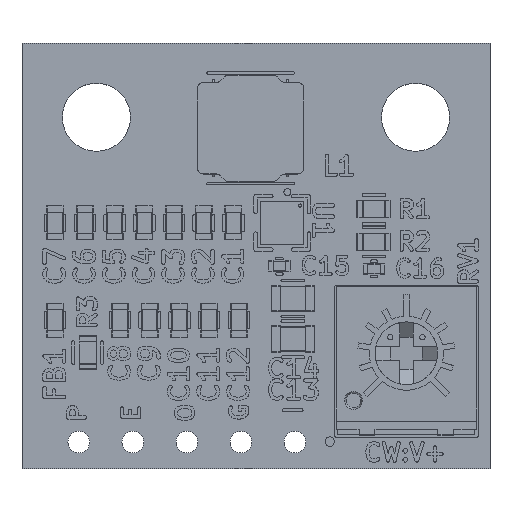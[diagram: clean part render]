
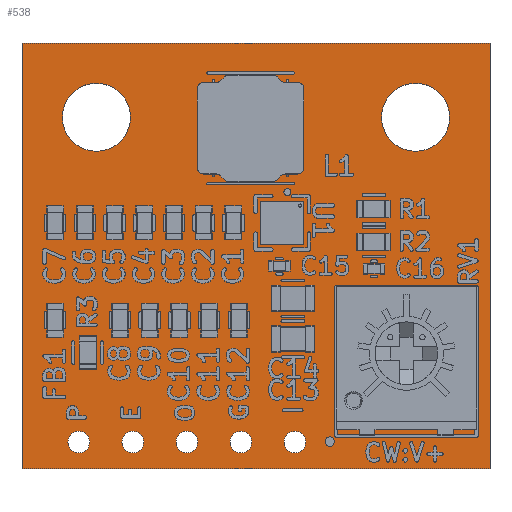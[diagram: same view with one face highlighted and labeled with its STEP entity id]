
A CAD part, top view. The second image highlights one B-rep face of the part: STEP entity #538.
In plain terms, the highlighted planar face has unit normal (0, 0, 1).
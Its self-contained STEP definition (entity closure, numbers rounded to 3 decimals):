
#89 = VERTEX_POINT('',#90);
#90 = CARTESIAN_POINT('',(42.,-40.,0.));
#107 = VERTEX_POINT('',#108);
#108 = CARTESIAN_POINT('',(20.,-40.,0.));
#114 = EDGE_CURVE('',#89,#107,#115,.T.);
#115 = LINE('',#116,#117);
#116 = CARTESIAN_POINT('',(42.,-40.,0.));
#117 = VECTOR('',#118,1.);
#118 = DIRECTION('',(-1.,0.,0.));
#129 = VERTEX_POINT('',#130);
#130 = CARTESIAN_POINT('',(42.,-20.,0.));
#145 = EDGE_CURVE('',#129,#89,#146,.T.);
#146 = LINE('',#147,#148);
#147 = CARTESIAN_POINT('',(42.,-20.,0.));
#148 = VECTOR('',#149,1.);
#149 = DIRECTION('',(0.,-1.,0.));
#160 = VERTEX_POINT('',#161);
#161 = CARTESIAN_POINT('',(20.,-20.,0.));
#176 = EDGE_CURVE('',#160,#107,#177,.T.);
#177 = LINE('',#178,#179);
#178 = CARTESIAN_POINT('',(20.,-20.,0.));
#179 = VECTOR('',#180,1.);
#180 = DIRECTION('',(0.,-1.,0.));
#198 = EDGE_CURVE('',#160,#129,#199,.T.);
#199 = LINE('',#200,#201);
#200 = CARTESIAN_POINT('',(20.,-20.,0.));
#201 = VECTOR('',#202,1.);
#202 = DIRECTION('',(1.,0.,0.));
#213 = VERTEX_POINT('',#214);
#214 = CARTESIAN_POINT('',(41.015,-34.925,0.));
#230 = EDGE_CURVE('',#213,#213,#231,.T.);
#231 = CIRCLE('',#232,0.406);
#232 = AXIS2_PLACEMENT_3D('',#233,#234,#235);
#233 = CARTESIAN_POINT('',(40.609,-34.925,0.));
#234 = DIRECTION('',(0.,0.,1.));
#235 = DIRECTION('',(1.,0.,-0.));
#246 = VERTEX_POINT('',#247);
#247 = CARTESIAN_POINT('',(35.935,-34.925,0.));
#263 = EDGE_CURVE('',#246,#246,#264,.T.);
#264 = CIRCLE('',#265,0.406);
#265 = AXIS2_PLACEMENT_3D('',#266,#267,#268);
#266 = CARTESIAN_POINT('',(35.529,-34.925,0.));
#267 = DIRECTION('',(0.,0.,1.));
#268 = DIRECTION('',(1.,0.,-0.));
#279 = VERTEX_POINT('',#280);
#280 = CARTESIAN_POINT('',(25.72,-38.75,0.));
#296 = EDGE_CURVE('',#279,#279,#297,.T.);
#297 = CIRCLE('',#298,0.51);
#298 = AXIS2_PLACEMENT_3D('',#299,#300,#301);
#299 = CARTESIAN_POINT('',(25.21,-38.75,0.));
#300 = DIRECTION('',(0.,0.,1.));
#301 = DIRECTION('',(1.,0.,-0.));
#312 = VERTEX_POINT('',#313);
#313 = CARTESIAN_POINT('',(28.26,-38.75,0.));
#329 = EDGE_CURVE('',#312,#312,#330,.T.);
#330 = CIRCLE('',#331,0.51);
#331 = AXIS2_PLACEMENT_3D('',#332,#333,#334);
#332 = CARTESIAN_POINT('',(27.75,-38.75,0.));
#333 = DIRECTION('',(0.,0.,1.));
#334 = DIRECTION('',(1.,0.,-0.));
#345 = VERTEX_POINT('',#346);
#346 = CARTESIAN_POINT('',(30.8,-38.75,0.));
#362 = EDGE_CURVE('',#345,#345,#363,.T.);
#363 = CIRCLE('',#364,0.51);
#364 = AXIS2_PLACEMENT_3D('',#365,#366,#367);
#365 = CARTESIAN_POINT('',(30.29,-38.75,0.));
#366 = DIRECTION('',(0.,0.,1.));
#367 = DIRECTION('',(1.,0.,-0.));
#378 = VERTEX_POINT('',#379);
#379 = CARTESIAN_POINT('',(33.34,-38.75,0.));
#395 = EDGE_CURVE('',#378,#378,#396,.T.);
#396 = CIRCLE('',#397,0.51);
#397 = AXIS2_PLACEMENT_3D('',#398,#399,#400);
#398 = CARTESIAN_POINT('',(32.83,-38.75,0.));
#399 = DIRECTION('',(0.,0.,1.));
#400 = DIRECTION('',(1.,0.,-0.));
#411 = VERTEX_POINT('',#412);
#412 = CARTESIAN_POINT('',(40.1,-23.48,0.));
#428 = EDGE_CURVE('',#411,#411,#429,.T.);
#429 = CIRCLE('',#430,1.6);
#430 = AXIS2_PLACEMENT_3D('',#431,#432,#433);
#431 = CARTESIAN_POINT('',(38.5,-23.48,0.));
#432 = DIRECTION('',(0.,0.,1.));
#433 = DIRECTION('',(1.,0.,-0.));
#444 = VERTEX_POINT('',#445);
#445 = CARTESIAN_POINT('',(38.475,-32.385,0.));
#461 = EDGE_CURVE('',#444,#444,#462,.T.);
#462 = CIRCLE('',#463,0.406);
#463 = AXIS2_PLACEMENT_3D('',#464,#465,#466);
#464 = CARTESIAN_POINT('',(38.069,-32.385,0.));
#465 = DIRECTION('',(0.,0.,1.));
#466 = DIRECTION('',(1.,0.,-0.));
#477 = VERTEX_POINT('',#478);
#478 = CARTESIAN_POINT('',(25.1,-23.48,0.));
#494 = EDGE_CURVE('',#477,#477,#495,.T.);
#495 = CIRCLE('',#496,1.6);
#496 = AXIS2_PLACEMENT_3D('',#497,#498,#499);
#497 = CARTESIAN_POINT('',(23.5,-23.48,0.));
#498 = DIRECTION('',(0.,0.,1.));
#499 = DIRECTION('',(1.,0.,-0.));
#510 = VERTEX_POINT('',#511);
#511 = CARTESIAN_POINT('',(23.18,-38.75,0.));
#527 = EDGE_CURVE('',#510,#510,#528,.T.);
#528 = CIRCLE('',#529,0.51);
#529 = AXIS2_PLACEMENT_3D('',#530,#531,#532);
#530 = CARTESIAN_POINT('',(22.67,-38.75,0.));
#531 = DIRECTION('',(0.,0.,1.));
#532 = DIRECTION('',(1.,0.,-0.));
#538 = ADVANCED_FACE('',(#539,#545,#548,#551,#554,#557,#560,#563,#566,
    #569,#572),#575,.F.);
#539 = FACE_BOUND('',#540,.F.);
#540 = EDGE_LOOP('',(#541,#542,#543,#544));
#541 = ORIENTED_EDGE('',*,*,#114,.T.);
#542 = ORIENTED_EDGE('',*,*,#176,.F.);
#543 = ORIENTED_EDGE('',*,*,#198,.T.);
#544 = ORIENTED_EDGE('',*,*,#145,.T.);
#545 = FACE_BOUND('',#546,.F.);
#546 = EDGE_LOOP('',(#547));
#547 = ORIENTED_EDGE('',*,*,#230,.T.);
#548 = FACE_BOUND('',#549,.F.);
#549 = EDGE_LOOP('',(#550));
#550 = ORIENTED_EDGE('',*,*,#263,.T.);
#551 = FACE_BOUND('',#552,.F.);
#552 = EDGE_LOOP('',(#553));
#553 = ORIENTED_EDGE('',*,*,#296,.T.);
#554 = FACE_BOUND('',#555,.F.);
#555 = EDGE_LOOP('',(#556));
#556 = ORIENTED_EDGE('',*,*,#329,.T.);
#557 = FACE_BOUND('',#558,.F.);
#558 = EDGE_LOOP('',(#559));
#559 = ORIENTED_EDGE('',*,*,#362,.T.);
#560 = FACE_BOUND('',#561,.F.);
#561 = EDGE_LOOP('',(#562));
#562 = ORIENTED_EDGE('',*,*,#395,.T.);
#563 = FACE_BOUND('',#564,.F.);
#564 = EDGE_LOOP('',(#565));
#565 = ORIENTED_EDGE('',*,*,#428,.T.);
#566 = FACE_BOUND('',#567,.F.);
#567 = EDGE_LOOP('',(#568));
#568 = ORIENTED_EDGE('',*,*,#461,.T.);
#569 = FACE_BOUND('',#570,.F.);
#570 = EDGE_LOOP('',(#571));
#571 = ORIENTED_EDGE('',*,*,#494,.T.);
#572 = FACE_BOUND('',#573,.F.);
#573 = EDGE_LOOP('',(#574));
#574 = ORIENTED_EDGE('',*,*,#527,.T.);
#575 = PLANE('',#576);
#576 = AXIS2_PLACEMENT_3D('',#577,#578,#579);
#577 = CARTESIAN_POINT('',(31.,-30.,0.));
#578 = DIRECTION('',(-0.,-0.,-1.));
#579 = DIRECTION('',(-1.,0.,0.));
